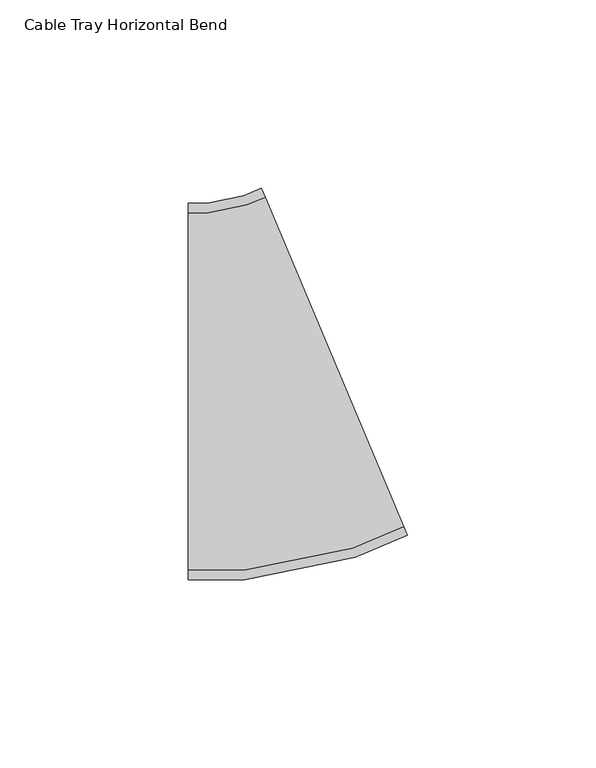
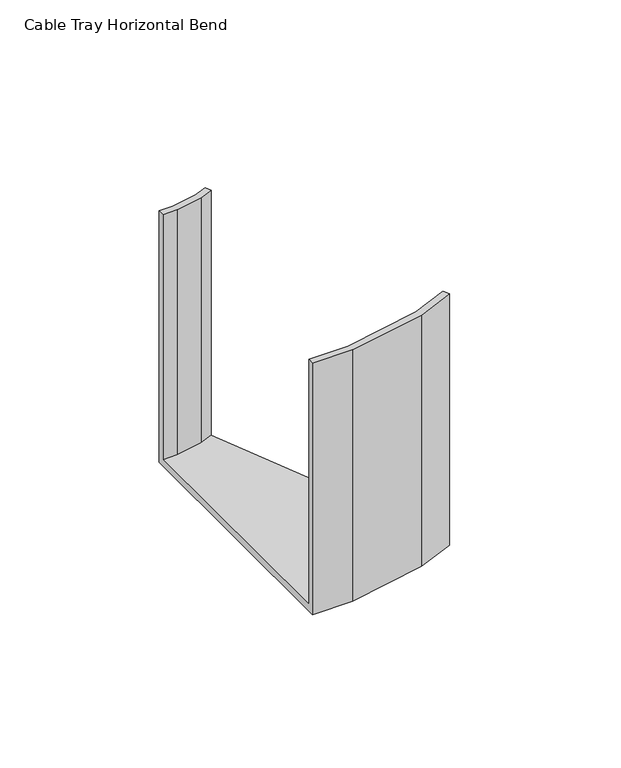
"""IFC4 building model written with IfcOpenShell, lengths in millimetres: cable carrier fitting geometry, Cable Tray Horizontal Bend : ELEC_ELV_TKG_N2402."""

from ifc_helpers import new_model, si_unit, origin, place, context, project, spatial, faceted_brep, source, transform, mapped, element, save


def cable_tray_horizontal_bend_5f4273b5(model_context):
    return source(origin(), model_context, "Body", "Brep", [
        faceted_brep([(-20.1847807, -50.0, -50.0), (-20.1847807, -50.0, 50.0), (-20.1847807, -47.46, 50.0), (-20.1847807, -47.46, -47.46), (-20.1847807, 47.46, -47.46), (-20.1847807, 47.46, 50.0), (-20.1847807, 50.0, 50.0), (-20.1847807, 50.0, -50.0), (37.9990063, -38.2557302, -50.0), (-0.790185, 53.9147566, -50.0), (-0.790185, 53.9147566, 50.0), (0.1950604, 51.5736262, 50.0), (0.1950604, 51.5736262, -47.46), (37.0137608, -35.9145999, -47.46), (37.0137608, -35.9145999, 50.0), (37.9990063, -38.2557302, 50.0), (-5.1973279, -50.0, -50.0), (-5.1973279, -50.0, 50.0), (24.184998, -44.069242, 50.0), (23.4336698, -41.6296695, 50.0), (-5.4511154, -47.46, 50.0), (-5.4511154, -47.46, -47.46), (23.4336698, -41.6296695, -47.46), (-4.6435262, 49.5373469, -47.46), (-14.9351755, 47.46, -47.46), (-14.9351755, 47.46, 50.0), (-4.6435262, 49.5373469, 50.0), (-5.3948544, 51.9769193, 50.0), (-15.1889631, 50.0, 50.0), (-15.1889631, 50.0, -50.0), (-5.3948544, 51.9769193, -50.0), (24.184998, -44.069242, -50.0)], [[[0, 1, 2, 3, 4, 5, 6, 7]], [[8, 9, 10, 11, 12, 13, 14, 15]], [[1, 0, 16, 17]], [[2, 1, 17, 18, 15, 14, 19, 20]], [[3, 2, 20, 21]], [[4, 3, 21, 22, 13, 12, 23, 24]], [[5, 4, 24, 25]], [[6, 5, 25, 26, 11, 10, 27, 28]], [[7, 6, 28, 29]], [[0, 7, 29, 30, 9, 8, 31, 16]], [[17, 16, 31, 18]], [[21, 20, 19, 22]], [[25, 24, 23, 26]], [[29, 28, 27, 30]], [[18, 31, 8, 15]], [[22, 19, 14, 13]], [[26, 23, 12, 11]], [[30, 27, 10, 9]]]),
    ])


if __name__ == "__main__":
    model = new_model("IFC4")
    model_context = context("Model", 3, world=origin())
    ifc_project = project(units=[si_unit("LENGTHUNIT", "METRE", prefix="MILLI")], contexts=[model_context])
    site = spatial("IfcSite", under=ifc_project)
    building = spatial("IfcBuilding", under=site)
    placement = place(None, origin())
    cable_tray_horizontal_bend_shape = cable_tray_horizontal_bend_5f4273b5(model_context)
    element("IfcCableCarrierFitting", 1, ObjectType="Cable Tray Horizontal Bend : ELEC_ELV_TKG_N2402", at=placement, inside=building, context=model_context, shape_type="MappedRepresentation", body=[
        mapped(cable_tray_horizontal_bend_shape, transform((0.0, 0.0, 0.0), x_axis=(1.0, 0.0, 0.0), y_axis=(0.0, 1.0, 0.0), z_axis=(0.0, 0.0, 1.0))),
    ])
    save(model, "model.ifc")
